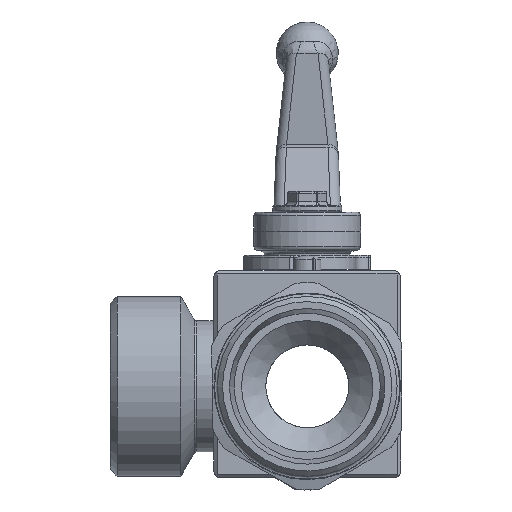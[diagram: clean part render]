
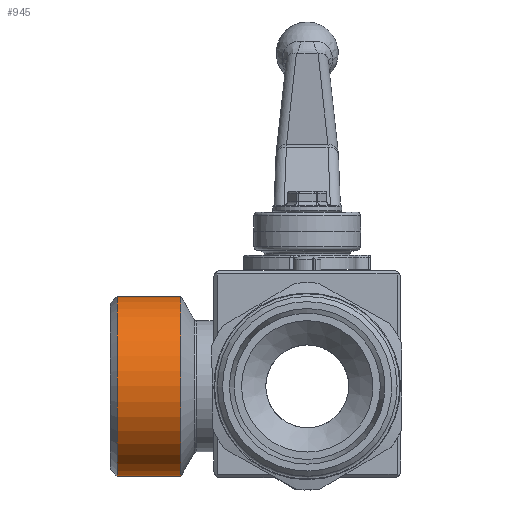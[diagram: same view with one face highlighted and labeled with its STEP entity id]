
A CAD part, front view. The second image highlights one B-rep face of the part: STEP entity #945.
In plain terms, the highlighted cylindrical face has radius 26 mm (diameter 52 mm), a full revolution.
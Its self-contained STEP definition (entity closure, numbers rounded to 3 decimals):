
#945 = ADVANCED_FACE( '', ( #2004, #2005 ), #2006, .T. );
#2004 = FACE_OUTER_BOUND( '', #3619, .T. );
#2005 = FACE_OUTER_BOUND( '', #3620, .T. );
#2006 = CYLINDRICAL_SURFACE( '', #3621, 26. );
#3619 = EDGE_LOOP( '', ( #6227 ) );
#3620 = EDGE_LOOP( '', ( #6228 ) );
#3621 = AXIS2_PLACEMENT_3D( '', #6229, #6230, #6231 );
#6227 = ORIENTED_EDGE( '', *, *, #8142, .T. );
#6228 = ORIENTED_EDGE( '', *, *, #8641, .T. );
#6229 = CARTESIAN_POINT( '', ( 0., 33., 0. ) );
#6230 = DIRECTION( '', ( 0., 1., 0. ) );
#6231 = DIRECTION( '', ( 0., 0., -1. ) );
#8142 = EDGE_CURVE( '', #9507, #9507, #9508, .T. );
#8641 = EDGE_CURVE( '', #10278, #10278, #10279, .T. );
#9507 = VERTEX_POINT( '', #11602 );
#9508 = CIRCLE( '', #11603, 26. );
#10278 = VERTEX_POINT( '', #13002 );
#10279 = CIRCLE( '', #13003, 26. );
#11602 = CARTESIAN_POINT( '', ( 0., 31., -26. ) );
#11603 = AXIS2_PLACEMENT_3D( '', #14448, #14449, #14450 );
#13002 = CARTESIAN_POINT( '', ( 0., 12.57, 26. ) );
#13003 = AXIS2_PLACEMENT_3D( '', #15090, #15091, #15092 );
#14448 = CARTESIAN_POINT( '', ( 0., 31., 0. ) );
#14449 = DIRECTION( '', ( 0., -1., 0. ) );
#14450 = DIRECTION( '', ( 0., 0., -1. ) );
#15090 = CARTESIAN_POINT( '', ( 0., 12.57, 0. ) );
#15091 = DIRECTION( '', ( 0., 1., 0. ) );
#15092 = DIRECTION( '', ( 0., 0., 1. ) );
